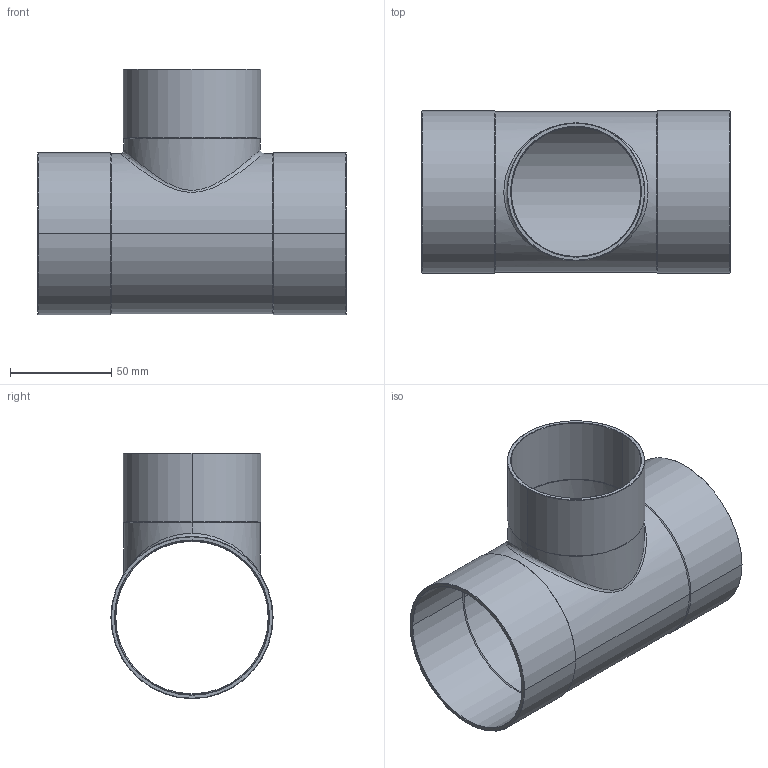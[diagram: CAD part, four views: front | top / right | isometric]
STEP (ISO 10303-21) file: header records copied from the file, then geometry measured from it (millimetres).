
FILE_DESCRIPTION((''),'2;1');
FILE_NAME('G:\Technics\CAD\Bauteile\15130\15130766476.stp','2005-11-02T10:20:02',('boden'),(''),'Autodesk Inventor 8','Autodesk Inventor 8','');
FILE_SCHEMA(('AUTOMOTIVE_DESIGN { 1 0 10303 214 1 1 1 1 }'));
Length unit declared in the file: millimetre
Products named in the file (1): 15130766476
Bounding box: 152 x 80 x 121 mm (x, y, z)
Volume: 82369.2 mm3; surface area: 88690.9 mm2
Topology: 1 solids, 1 shells, 49 faces, 102 edges, 56 vertices
Faces by surface type: cone 24, cylinder 20, plane 3, bspline 2
Entity records: 1817 total; most frequent: CARTESIAN_POINT 738, DIRECTION 240, ORIENTED_EDGE 204, EDGE_CURVE 102, AXIS2_PLACEMENT_3D 98, VERTEX_POINT 56, EDGE_LOOP 54, CIRCLE 50
